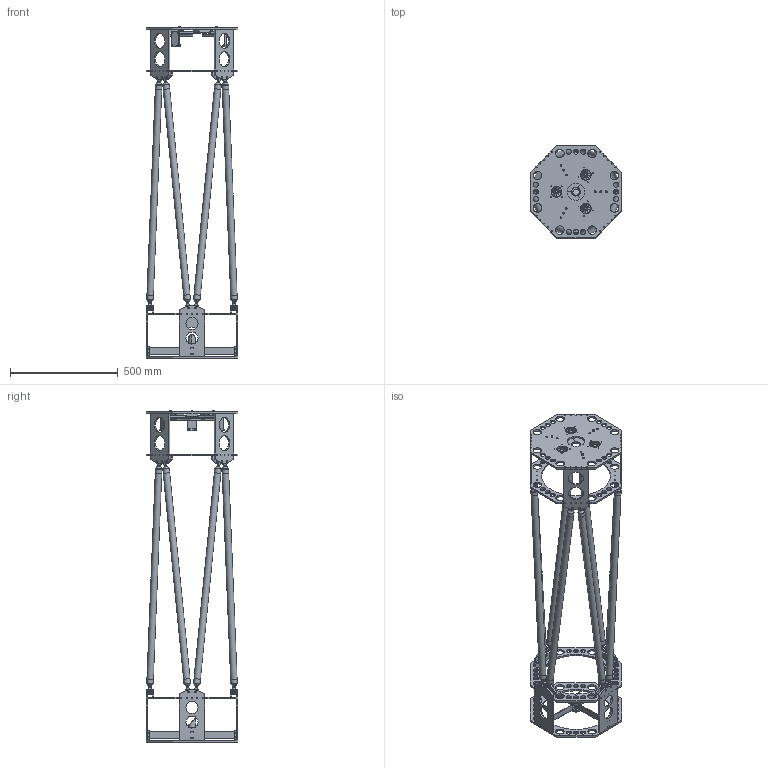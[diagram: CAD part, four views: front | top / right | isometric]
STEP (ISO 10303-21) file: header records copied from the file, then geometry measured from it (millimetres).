
FILE_DESCRIPTION(('FreeCAD Model'),'2;1');
FILE_NAME('/home/ae/Desktop/telecope_mech.step','2020-10-15T14:54:26',( 'Author'),(''),'Open CASCADE STEP processor 7.3','FreeCAD','Unknown' );
FILE_SCHEMA(('AUTOMOTIVE_DESIGN { 1 0 10303 214 1 1 1 1 }'));
Length unit declared in the file: millimetre
Products named in the file (10): AssemblyTubeWithConnector_002; AssemblyTubeWithConnector_004; AssemblyTubeWithConnector_005; AssemblyTubeWithConnector_001; AssemblyTubeWithConnector_003; AssemblyTubeWithConnector_006; AssemblyTubeWithConnector_007; AssemblyTubeWithConnector_008; AssemblyBack_001; AssemblyFront_001
Bounding box: 426 x 426 x 1539.5 mm (x, y, z)
Volume: 5144420.1 mm3; surface area: 3041530.2 mm2
Topology: 143 solids, 153 shells, 2293 faces, 5504 edges, 3564 vertices
Faces by surface type: plane 1148, cylinder 894, cone 119, torus 56, sphere 44, bspline 32
Full cylindrical faces by diameter (mm): 3 x54, 4 x192, 5 x22, 6 x12, 6.6 x3, 7 x6, 8 x31, 9 x19, 10 x38, 12 x2, 14 x6, 20 x3, 24 x48, 27 x16, 28 x8, 29 x16, 30 x8, 40 x33, 46 x1, 48 x2, 50 x6, 56 x6, 70 x8, 74 x1, 80 x1, 320 x3
Entity records: 162550 total; most frequent: CARTESIAN_POINT 35130, DIRECTION 20488, LINE 11180, VECTOR 11180, ORIENTED_EDGE 10996, PCURVE 10996, DEFINITIONAL_REPRESENTATION 10996, EDGE_CURVE 5498
